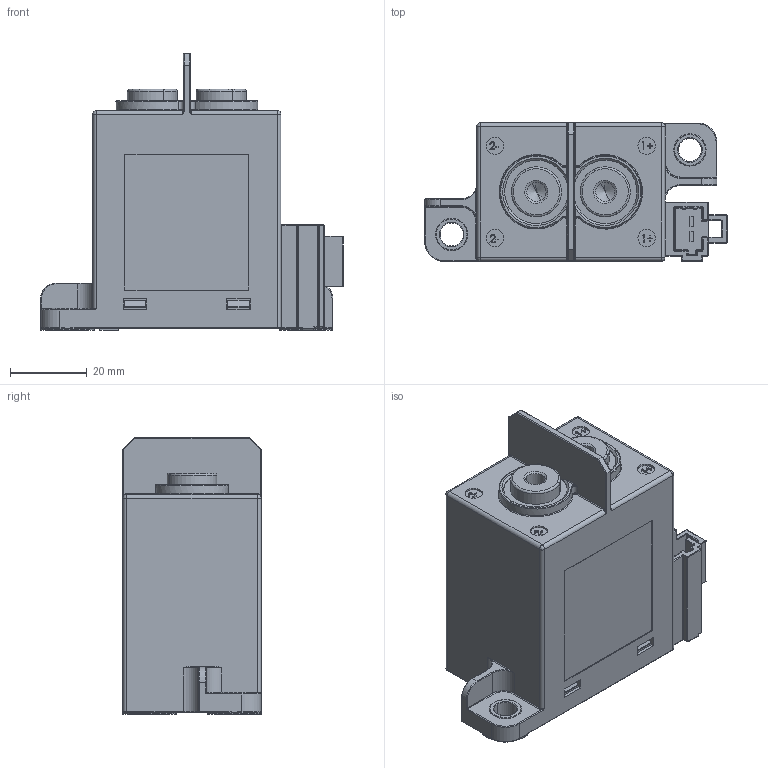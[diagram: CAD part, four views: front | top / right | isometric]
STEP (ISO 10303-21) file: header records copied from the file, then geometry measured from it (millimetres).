
FILE_DESCRIPTION (( 'STEP AP203' ), '1' );
FILE_NAME ('NDZ3AT-150GÍâÐÎ3D.STEP', '2022-08-06T01:06:40', ( '' ), ( '' ), 'SwSTEP 2.0', 'SolidWorks 2018', '' );
FILE_SCHEMA (( 'CONFIG_CONTROL_DESIGN' ));
Length unit declared in the file: millimetre
Products named in the file (1): NDZ3AT-150G俋倛3D
Bounding box: 78.7 x 36 x 72 mm (x, y, z)
Volume: 27661.7 mm3; surface area: 36406.4 mm2
Topology: 4 solids, 4 shells, 1328 faces, 3288 edges, 1905 vertices
Faces by surface type: cylinder 544, plane 539, torus 137, sphere 59, bspline 38, cone 11
Entity records: 39341 total; most frequent: CARTESIAN_POINT 8896, ORIENTED_EDGE 6400, DIRECTION 6319, EDGE_CURVE 3200, AXIS2_PLACEMENT_3D 2144, LINE 2031, VECTOR 2031, VERTEX_POINT 1905
